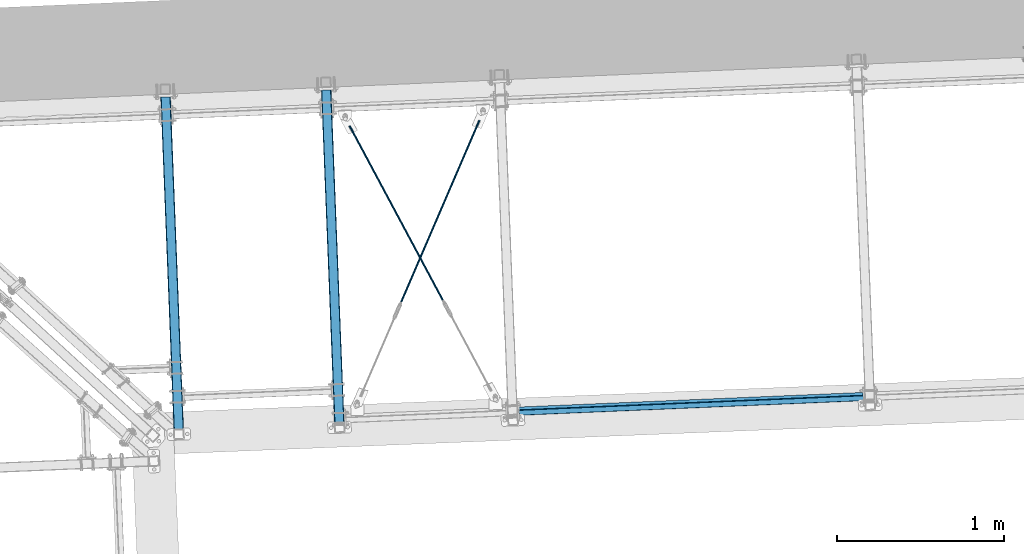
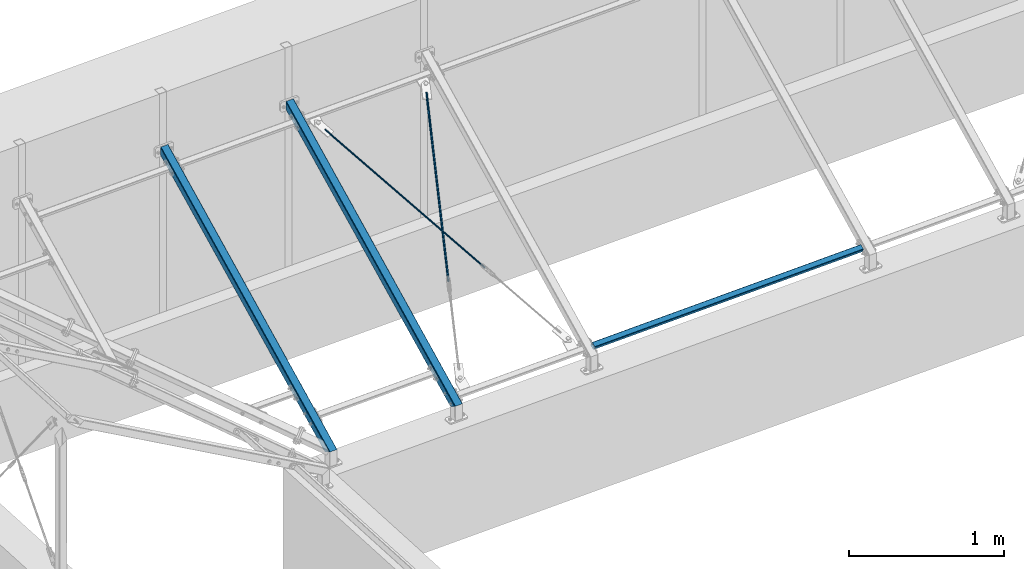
# One storey, part 15 of 288: 5 members, 48 openings.
"""IFC2X3 building model written with IfcOpenShell, lengths in millimetres."""

from ifc_helpers import new_model, entity, si_unit, converted_unit, frame, frame_2d, origin, origin_with_axes, origin_2d, place, context, project, spatial, hollow_rectangle, circle, extrude, clip, halfspace, material, element, save


model = new_model("IFC2X3")

# Units and contexts
model_context = context("Model", 3, precision=1e-09, world=origin_with_axes())
ifc_project = project(units=[si_unit("LENGTHUNIT", "METRE", prefix="MILLI"), si_unit("AREAUNIT", "SQUARE_METRE"), si_unit("VOLUMEUNIT", "CUBIC_METRE"), converted_unit("PLANEANGLEUNIT", "DEGREE", entity("IfcPlaneAngleMeasure", 0.01745329), si_unit("PLANEANGLEUNIT", "RADIAN"), dimensions=[0, 0, 0, 0, 0, 0, 0])], contexts=[model_context])

# Site, building, storey
site_placement = place(None, origin_with_axes())
site = spatial("IfcSite", under=ifc_project, at=site_placement, Name="Remont ?wietlik?w nad MC w NCPP w Opolu", CompositionType="ELEMENT")
building_placement = place(site_placement, origin_with_axes())
building = spatial("IfcBuilding", under=site, at=building_placement, Name="Konstrukcja 1", CompositionType="ELEMENT")
storey_placement = place(building_placement, origin_with_axes())
storey = spatial("IfcBuildingStorey", under=building, at=storey_placement, Name="Default Storey", CompositionType="ELEMENT", Elevation=0.0)

# Member, openings
ifc_material_1 = material(Name="S235")
member_1_placement = place(None, frame((1393.687039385, 15659.063221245, 1324.252991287), z_axis=(0.034018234, -0.862887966, -0.504249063), x_axis=(-0.019863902, 0.503857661, -0.863558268)))
member_1 = element("IfcMember", 1, at=member_1_placement, inside=storey, material=ifc_material_1, Name="Horizontal_Beam", ObjectType="Horizontal_Beam", context=model_context, shape_type="Clipping", body=[
    clip(clip(clip(extrude(hollow_rectangle(XDim=60.0, YDim=60.0, WallThickness=3.0, InnerFilletRadius=3.0, OuterFilletRadius=6.0, at=origin_2d()), origin(), (0.0, 0.0, 1.0), 2457.619971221), halfspace(frame((1118.948058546, -2009.460506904, 709.919199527), z_axis=(-0.504249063, -2.27e-07, 0.863558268), x_axis=(0.0, 1.0, 2.09e-07)), True)), halfspace(frame((1111.485514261, -2009.464031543, 722.69927647), z_axis=(-0.504249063, 0.0, 0.863558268), x_axis=(0.0, 1.0, 0.0)), True)), halfspace(frame((-10115.320477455, -2009.463927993, 8215.696932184), z_axis=(-0.497871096, 0.0, -0.867251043), x_axis=(0.0, -1.0, 0.0)), True)),
])
opening_1_placement = place(member_1_placement, frame((6.302336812, 26.273066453, 2108.165199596), z_axis=(-0.001743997, -0.999995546, 0.002422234), x_axis=(0.999998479, -0.001744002, 0.0)))
element("IfcOpeningElement", 2, at=opening_1_placement, cuts=member_1, ObjectType="Opening", context=model_context, shape_type="SweptSolid", body=[
    extrude(circle(Radius=7.001, at=frame_2d((-7.000994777, -0.008551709), x_axis=(1.0, 0.0))), origin(), (0.0, 0.0, -1.0), 4.232758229),
])
opening_2_placement = place(member_1_placement, frame((6.204955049, 26.467015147, 2188.164905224), z_axis=(-0.001743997, -0.999995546, 0.002422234), x_axis=(0.999998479, -0.001744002, 0.0)))
element("IfcOpeningElement", 3, at=opening_2_placement, cuts=member_1, ObjectType="Opening", context=model_context, shape_type="SweptSolid", body=[
    extrude(circle(Radius=7.001, at=frame_2d((-7.000994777, -0.008551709), x_axis=(1.0, 0.0))), origin(), (0.0, 0.0, -1.0), 4.232758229),
])
opening_3_placement = place(member_1_placement, frame((6.302336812, 26.273066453, 2108.165199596), z_axis=(-0.001743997, -0.999995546, 0.002422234), x_axis=(0.999998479, -0.001744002, 0.0)))
element("IfcOpeningElement", 4, at=opening_3_placement, cuts=member_1, ObjectType="Opening", context=model_context, shape_type="SweptSolid", body=[
    extrude(circle(Radius=7.001, at=frame_2d((-7.000994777, -0.008551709), x_axis=(1.0, 0.0))), origin(), (0.0, 0.0, -1.0), 4.038808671),
])
opening_4_placement = place(member_1_placement, frame((6.204955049, 26.467015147, 2188.164905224), z_axis=(-0.001743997, -0.999995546, 0.002422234), x_axis=(0.999998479, -0.001744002, 0.0)))
element("IfcOpeningElement", 5, at=opening_4_placement, cuts=member_1, ObjectType="Opening", context=model_context, shape_type="SweptSolid", body=[
    extrude(circle(Radius=7.001, at=frame_2d((-7.000994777, -0.008551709), x_axis=(1.0, 0.0))), origin(), (0.0, 0.0, -1.0), 4.038808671),
])
opening_5_placement = place(member_1_placement, frame((6.202928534, -30.726933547, 2108.303267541), z_axis=(-0.001743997, -0.999995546, 0.002422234), x_axis=(0.999998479, -0.001744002, 0.0)))
element("IfcOpeningElement", 6, at=opening_5_placement, cuts=member_1, ObjectType="Opening", context=model_context, shape_type="SweptSolid", body=[
    extrude(circle(Radius=7.001, at=frame_2d((-7.000994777, -0.008551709), x_axis=(1.0, 0.0))), origin(), (0.0, 0.0, -1.0), 4.232758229),
])
opening_6_placement = place(member_1_placement, frame((6.10554677, -30.532984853, 2188.30297317), z_axis=(-0.001743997, -0.999995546, 0.002422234), x_axis=(0.999998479, -0.001744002, 0.0)))
element("IfcOpeningElement", 7, at=opening_6_placement, cuts=member_1, ObjectType="Opening", context=model_context, shape_type="SweptSolid", body=[
    extrude(circle(Radius=7.001, at=frame_2d((-7.000994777, -0.008551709), x_axis=(1.0, 0.0))), origin(), (0.0, 0.0, -1.0), 4.232758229),
])
opening_7_placement = place(member_1_placement, frame((6.202928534, -30.726933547, 2108.303267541), z_axis=(-0.001743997, -0.999995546, 0.002422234), x_axis=(0.999998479, -0.001744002, 0.0)))
element("IfcOpeningElement", 8, at=opening_7_placement, cuts=member_1, ObjectType="Opening", context=model_context, shape_type="SweptSolid", body=[
    extrude(circle(Radius=7.001, at=frame_2d((-7.000994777, -0.008551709), x_axis=(1.0, 0.0))), origin(), (0.0, 0.0, -1.0), 4.038808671),
])
opening_8_placement = place(member_1_placement, frame((6.10554677, -30.532984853, 2188.30297317), z_axis=(-0.001743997, -0.999995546, 0.002422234), x_axis=(0.999998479, -0.001744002, 0.0)))
element("IfcOpeningElement", 9, at=opening_8_placement, cuts=member_1, ObjectType="Opening", context=model_context, shape_type="SweptSolid", body=[
    extrude(circle(Radius=7.001, at=frame_2d((-7.000994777, -0.008551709), x_axis=(1.0, 0.0))), origin(), (0.0, 0.0, -1.0), 4.038808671),
])
opening_9_placement = place(member_1_placement, frame((-0.300561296, 30.617770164, 198.955416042), z_axis=(-0.001743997, -0.999995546, 0.002422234), x_axis=(-0.999997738, 0.001741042, -0.001221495)))
element("IfcOpeningElement", 10, at=opening_9_placement, cuts=member_1, ObjectType="Opening", context=model_context, shape_type="SweptSolid", body=[
    extrude(circle(Radius=7.001, at=frame_2d((0.0, 40.0), x_axis=(1.0, 0.0))), origin(), (0.0, 0.0, 1.0), 4.038808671),
])
opening_10_placement = place(member_1_placement, frame((-0.300561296, 30.617770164, 198.955416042), z_axis=(-0.001743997, -0.999995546, 0.002422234), x_axis=(-0.999997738, 0.001741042, -0.001221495)))
element("IfcOpeningElement", 11, at=opening_10_placement, cuts=member_1, ObjectType="Opening", context=model_context, shape_type="SweptSolid", body=[
    extrude(circle(Radius=7.001, at=frame_2d((0.0, -40.0), x_axis=(1.0, 0.0))), origin(), (0.0, 0.0, 1.0), 4.038808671),
])
opening_11_placement = place(member_1_placement, frame((-0.300561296, 30.617770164, 198.955416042), z_axis=(-0.001743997, -0.999995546, 0.002422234), x_axis=(-0.999997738, 0.001741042, -0.001221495)))
element("IfcOpeningElement", 12, at=opening_11_placement, cuts=member_1, ObjectType="Opening", context=model_context, shape_type="SweptSolid", body=[
    extrude(circle(Radius=7.001, at=frame_2d((0.0, 40.0), x_axis=(1.0, 0.0))), origin(), (0.0, 0.0, 1.0), 4.232758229),
])
opening_12_placement = place(member_1_placement, frame((-0.300561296, 30.617770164, 198.955416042), z_axis=(-0.001743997, -0.999995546, 0.002422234), x_axis=(-0.999997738, 0.001741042, -0.001221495)))
element("IfcOpeningElement", 13, at=opening_12_placement, cuts=member_1, ObjectType="Opening", context=model_context, shape_type="SweptSolid", body=[
    extrude(circle(Radius=7.001, at=frame_2d((0.0, -40.0), x_axis=(1.0, 0.0))), origin(), (0.0, 0.0, 1.0), 4.232758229),
])
opening_13_placement = place(member_1_placement, frame((-0.399969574, -26.382229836, 199.093483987), z_axis=(-0.001743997, -0.999995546, 0.002422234), x_axis=(-0.999997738, 0.001741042, -0.001221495)))
element("IfcOpeningElement", 14, at=opening_13_placement, cuts=member_1, ObjectType="Opening", context=model_context, shape_type="SweptSolid", body=[
    extrude(circle(Radius=7.001, at=frame_2d((0.0, 40.0), x_axis=(1.0, 0.0))), origin(), (0.0, 0.0, 1.0), 4.038808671),
])
opening_14_placement = place(member_1_placement, frame((-0.399969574, -26.382229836, 199.093483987), z_axis=(-0.001743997, -0.999995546, 0.002422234), x_axis=(-0.999997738, 0.001741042, -0.001221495)))
element("IfcOpeningElement", 15, at=opening_14_placement, cuts=member_1, ObjectType="Opening", context=model_context, shape_type="SweptSolid", body=[
    extrude(circle(Radius=7.001, at=frame_2d((0.0, -40.0), x_axis=(1.0, 0.0))), origin(), (0.0, 0.0, 1.0), 4.038808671),
])
opening_15_placement = place(member_1_placement, frame((-0.399969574, -26.382229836, 199.093483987), z_axis=(-0.001743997, -0.999995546, 0.002422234), x_axis=(-0.999997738, 0.001741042, -0.001221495)))
element("IfcOpeningElement", 16, at=opening_15_placement, cuts=member_1, ObjectType="Opening", context=model_context, shape_type="SweptSolid", body=[
    extrude(circle(Radius=7.001, at=frame_2d((0.0, 40.0), x_axis=(1.0, 0.0))), origin(), (0.0, 0.0, 1.0), 4.232758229),
])
opening_16_placement = place(member_1_placement, frame((-0.399969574, -26.382229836, 199.093483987), z_axis=(-0.001743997, -0.999995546, 0.002422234), x_axis=(-0.999997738, 0.001741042, -0.001221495)))
element("IfcOpeningElement", 17, at=opening_16_placement, cuts=member_1, ObjectType="Opening", context=model_context, shape_type="SweptSolid", body=[
    extrude(circle(Radius=7.001, at=frame_2d((0.0, -40.0), x_axis=(1.0, 0.0))), origin(), (0.0, 0.0, 1.0), 4.232758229),
])
opening_17_placement = place(member_1_placement, frame((6.302336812, 26.273066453, 1908.165199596), z_axis=(-0.001743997, -0.999995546, 0.002422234), x_axis=(0.999998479, -0.001744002, 0.0)))
element("IfcOpeningElement", 18, at=opening_17_placement, cuts=member_1, ObjectType="Opening", context=model_context, shape_type="SweptSolid", body=[
    extrude(circle(Radius=7.001, at=frame_2d((-7.000994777, -0.008551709), x_axis=(1.0, 0.0))), origin(), (0.0, 0.0, -1.0), 4.232758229),
])
opening_18_placement = place(member_1_placement, frame((6.204955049, 26.467015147, 1988.164905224), z_axis=(-0.001743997, -0.999995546, 0.002422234), x_axis=(0.999998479, -0.001744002, 0.0)))
element("IfcOpeningElement", 19, at=opening_18_placement, cuts=member_1, ObjectType="Opening", context=model_context, shape_type="SweptSolid", body=[
    extrude(circle(Radius=7.001, at=frame_2d((-7.000994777, -0.008551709), x_axis=(1.0, 0.0))), origin(), (0.0, 0.0, -1.0), 4.232758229),
])
opening_19_placement = place(member_1_placement, frame((6.302336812, 26.273066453, 1908.165199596), z_axis=(-0.001743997, -0.999995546, 0.002422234), x_axis=(0.999998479, -0.001744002, 0.0)))
element("IfcOpeningElement", 20, at=opening_19_placement, cuts=member_1, ObjectType="Opening", context=model_context, shape_type="SweptSolid", body=[
    extrude(circle(Radius=7.001, at=frame_2d((-7.000994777, -0.008551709), x_axis=(1.0, 0.0))), origin(), (0.0, 0.0, -1.0), 4.038808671),
])
opening_20_placement = place(member_1_placement, frame((6.204955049, 26.467015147, 1988.164905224), z_axis=(-0.001743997, -0.999995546, 0.002422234), x_axis=(0.999998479, -0.001744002, 0.0)))
element("IfcOpeningElement", 21, at=opening_20_placement, cuts=member_1, ObjectType="Opening", context=model_context, shape_type="SweptSolid", body=[
    extrude(circle(Radius=7.001, at=frame_2d((-7.000994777, -0.008551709), x_axis=(1.0, 0.0))), origin(), (0.0, 0.0, -1.0), 4.038808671),
])
opening_21_placement = place(member_1_placement, frame((6.202928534, -30.726933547, 1908.303267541), z_axis=(-0.001743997, -0.999995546, 0.002422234), x_axis=(0.999998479, -0.001744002, 0.0)))
element("IfcOpeningElement", 22, at=opening_21_placement, cuts=member_1, ObjectType="Opening", context=model_context, shape_type="SweptSolid", body=[
    extrude(circle(Radius=7.001, at=frame_2d((-7.000994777, -0.008551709), x_axis=(1.0, 0.0))), origin(), (0.0, 0.0, -1.0), 4.232758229),
])
opening_22_placement = place(member_1_placement, frame((6.10554677, -30.532984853, 1988.30297317), z_axis=(-0.001743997, -0.999995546, 0.002422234), x_axis=(0.999998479, -0.001744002, 0.0)))
element("IfcOpeningElement", 23, at=opening_22_placement, cuts=member_1, ObjectType="Opening", context=model_context, shape_type="SweptSolid", body=[
    extrude(circle(Radius=7.001, at=frame_2d((-7.000994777, -0.008551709), x_axis=(1.0, 0.0))), origin(), (0.0, 0.0, -1.0), 4.232758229),
])
opening_23_placement = place(member_1_placement, frame((6.202928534, -30.726933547, 1908.303267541), z_axis=(-0.001743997, -0.999995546, 0.002422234), x_axis=(0.999998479, -0.001744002, 0.0)))
element("IfcOpeningElement", 24, at=opening_23_placement, cuts=member_1, ObjectType="Opening", context=model_context, shape_type="SweptSolid", body=[
    extrude(circle(Radius=7.001, at=frame_2d((-7.000994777, -0.008551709), x_axis=(1.0, 0.0))), origin(), (0.0, 0.0, -1.0), 4.038808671),
])
opening_24_placement = place(member_1_placement, frame((6.10554677, -30.532984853, 1988.30297317), z_axis=(-0.001743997, -0.999995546, 0.002422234), x_axis=(0.999998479, -0.001744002, 0.0)))
element("IfcOpeningElement", 25, at=opening_24_placement, cuts=member_1, ObjectType="Opening", context=model_context, shape_type="SweptSolid", body=[
    extrude(circle(Radius=7.001, at=frame_2d((-7.000994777, -0.008551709), x_axis=(1.0, 0.0))), origin(), (0.0, 0.0, -1.0), 4.038808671),
])

member_2_placement = place(None, frame((2353.085716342, 15699.741543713, 1323.807360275), z_axis=(0.034021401, -0.862968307, -0.504111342), x_axis=(-0.019858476, 0.503720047, -0.863638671)))
member_2 = element("IfcMember", 26, at=member_2_placement, inside=storey, material=ifc_material_1, Name="Horizontal_Beam", ObjectType="Horizontal_Beam", context=model_context, shape_type="Clipping", body=[
    clip(clip(clip(extrude(hollow_rectangle(XDim=60.0, YDim=60.0, WallThickness=3.0, InnerFilletRadius=3.0, OuterFilletRadius=6.0, at=origin_2d()), origin(), (0.0, 0.0, 1.0), 2457.39796562), halfspace(frame((1111.316687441, -2969.720459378, 722.124627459), z_axis=(-0.504111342, 0.0, 0.863638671), x_axis=(0.0, 1.0, 0.0)), True)), halfspace(frame((1119.057801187, -2969.716933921, 708.862626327), z_axis=(-0.504111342, -2.27e-07, 0.863638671), x_axis=(0.0, 1.0, 2.09e-07)), True)), halfspace(frame((-10116.531694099, -2969.720355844, 8217.240557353), z_axis=(-0.497940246, 0.0, -0.867211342), x_axis=(0.0, -1.0, 0.0)), True)),
])
opening_25_placement = place(member_2_placement, frame((6.489698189, 26.273066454, 2108.077292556), z_axis=(-0.001743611, -0.999995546, 0.002422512), x_axis=(0.99999848, -0.001743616, 0.0)))
element("IfcOpeningElement", 27, at=opening_25_placement, cuts=member_2, ObjectType="Opening", context=model_context, shape_type="SweptSolid", body=[
    extrude(circle(Radius=7.001, at=frame_2d((-7.000996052, -0.007435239), x_axis=(1.0, 0.0))), origin(), (0.0, 0.0, -1.0), 4.232758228),
])
opening_26_placement = place(member_2_placement, frame((6.405074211, 26.467015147, 2188.077012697), z_axis=(-0.001743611, -0.999995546, 0.002422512), x_axis=(0.99999848, -0.001743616, 0.0)))
element("IfcOpeningElement", 28, at=opening_26_placement, cuts=member_2, ObjectType="Opening", context=model_context, shape_type="SweptSolid", body=[
    extrude(circle(Radius=7.001, at=frame_2d((-7.000996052, -0.007435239), x_axis=(1.0, 0.0))), origin(), (0.0, 0.0, -1.0), 4.232758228),
])
opening_27_placement = place(member_2_placement, frame((6.489698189, 26.273066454, 2108.077292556), z_axis=(-0.001743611, -0.999995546, 0.002422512), x_axis=(0.99999848, -0.001743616, 0.0)))
element("IfcOpeningElement", 29, at=opening_27_placement, cuts=member_2, ObjectType="Opening", context=model_context, shape_type="SweptSolid", body=[
    extrude(circle(Radius=7.001, at=frame_2d((-7.000996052, -0.007435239), x_axis=(1.0, 0.0))), origin(), (0.0, 0.0, -1.0), 4.038808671),
])
opening_28_placement = place(member_2_placement, frame((6.405074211, 26.467015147, 2188.077012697), z_axis=(-0.001743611, -0.999995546, 0.002422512), x_axis=(0.99999848, -0.001743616, 0.0)))
element("IfcOpeningElement", 30, at=opening_28_placement, cuts=member_2, ObjectType="Opening", context=model_context, shape_type="SweptSolid", body=[
    extrude(circle(Radius=7.001, at=frame_2d((-7.000996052, -0.007435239), x_axis=(1.0, 0.0))), origin(), (0.0, 0.0, -1.0), 4.038808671),
])
opening_29_placement = place(member_2_placement, frame((6.390311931, -30.726933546, 2108.215376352), z_axis=(-0.001743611, -0.999995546, 0.002422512), x_axis=(0.99999848, -0.001743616, 0.0)))
element("IfcOpeningElement", 31, at=opening_29_placement, cuts=member_2, ObjectType="Opening", context=model_context, shape_type="SweptSolid", body=[
    extrude(circle(Radius=7.001, at=frame_2d((-7.000996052, -0.007435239), x_axis=(1.0, 0.0))), origin(), (0.0, 0.0, -1.0), 4.232758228),
])
opening_30_placement = place(member_2_placement, frame((6.305687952, -30.532984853, 2188.215096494), z_axis=(-0.001743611, -0.999995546, 0.002422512), x_axis=(0.99999848, -0.001743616, 0.0)))
element("IfcOpeningElement", 32, at=opening_30_placement, cuts=member_2, ObjectType="Opening", context=model_context, shape_type="SweptSolid", body=[
    extrude(circle(Radius=7.001, at=frame_2d((-7.000996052, -0.007435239), x_axis=(1.0, 0.0))), origin(), (0.0, 0.0, -1.0), 4.232758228),
])
opening_31_placement = place(member_2_placement, frame((6.390311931, -30.726933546, 2108.215376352), z_axis=(-0.001743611, -0.999995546, 0.002422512), x_axis=(0.99999848, -0.001743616, 0.0)))
element("IfcOpeningElement", 33, at=opening_31_placement, cuts=member_2, ObjectType="Opening", context=model_context, shape_type="SweptSolid", body=[
    extrude(circle(Radius=7.001, at=frame_2d((-7.000996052, -0.007435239), x_axis=(1.0, 0.0))), origin(), (0.0, 0.0, -1.0), 4.038808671),
])
opening_32_placement = place(member_2_placement, frame((6.305687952, -30.532984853, 2188.215096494), z_axis=(-0.001743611, -0.999995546, 0.002422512), x_axis=(0.99999848, -0.001743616, 0.0)))
element("IfcOpeningElement", 34, at=opening_32_placement, cuts=member_2, ObjectType="Opening", context=model_context, shape_type="SweptSolid", body=[
    extrude(circle(Radius=7.001, at=frame_2d((-7.000996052, -0.007435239), x_axis=(1.0, 0.0))), origin(), (0.0, 0.0, -1.0), 4.038808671),
])
opening_33_placement = place(member_2_placement, frame((-0.417667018, 30.617770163, 198.868586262), z_axis=(-0.001743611, -0.999995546, 0.002422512), x_axis=(-0.99999792, 0.001741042, -0.001062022)))
element("IfcOpeningElement", 35, at=opening_33_placement, cuts=member_2, ObjectType="Opening", context=model_context, shape_type="SweptSolid", body=[
    extrude(circle(Radius=7.001, at=frame_2d((0.0, 40.0), x_axis=(1.0, 0.0))), origin(), (0.0, 0.0, 1.0), 4.038808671),
])
opening_34_placement = place(member_2_placement, frame((-0.417667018, 30.617770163, 198.868586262), z_axis=(-0.001743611, -0.999995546, 0.002422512), x_axis=(-0.99999792, 0.001741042, -0.001062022)))
element("IfcOpeningElement", 36, at=opening_34_placement, cuts=member_2, ObjectType="Opening", context=model_context, shape_type="SweptSolid", body=[
    extrude(circle(Radius=7.001, at=frame_2d((0.0, -40.0), x_axis=(1.0, 0.0))), origin(), (0.0, 0.0, 1.0), 4.038808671),
])
opening_35_placement = place(member_2_placement, frame((-0.417667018, 30.617770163, 198.868586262), z_axis=(-0.001743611, -0.999995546, 0.002422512), x_axis=(-0.99999792, 0.001741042, -0.001062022)))
element("IfcOpeningElement", 37, at=opening_35_placement, cuts=member_2, ObjectType="Opening", context=model_context, shape_type="SweptSolid", body=[
    extrude(circle(Radius=7.001, at=frame_2d((0.0, 40.0), x_axis=(1.0, 0.0))), origin(), (0.0, 0.0, 1.0), 4.232758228),
])
opening_36_placement = place(member_2_placement, frame((-0.417667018, 30.617770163, 198.868586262), z_axis=(-0.001743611, -0.999995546, 0.002422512), x_axis=(-0.99999792, 0.001741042, -0.001062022)))
element("IfcOpeningElement", 38, at=opening_36_placement, cuts=member_2, ObjectType="Opening", context=model_context, shape_type="SweptSolid", body=[
    extrude(circle(Radius=7.001, at=frame_2d((0.0, -40.0), x_axis=(1.0, 0.0))), origin(), (0.0, 0.0, 1.0), 4.232758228),
])
opening_37_placement = place(member_2_placement, frame((-0.517053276, -26.382229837, 199.006670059), z_axis=(-0.001743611, -0.999995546, 0.002422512), x_axis=(-0.99999792, 0.001741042, -0.001062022)))
element("IfcOpeningElement", 39, at=opening_37_placement, cuts=member_2, ObjectType="Opening", context=model_context, shape_type="SweptSolid", body=[
    extrude(circle(Radius=7.001, at=frame_2d((0.0, 40.0), x_axis=(1.0, 0.0))), origin(), (0.0, 0.0, 1.0), 4.038808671),
])
opening_38_placement = place(member_2_placement, frame((-0.517053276, -26.382229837, 199.006670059), z_axis=(-0.001743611, -0.999995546, 0.002422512), x_axis=(-0.99999792, 0.001741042, -0.001062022)))
element("IfcOpeningElement", 40, at=opening_38_placement, cuts=member_2, ObjectType="Opening", context=model_context, shape_type="SweptSolid", body=[
    extrude(circle(Radius=7.001, at=frame_2d((0.0, -40.0), x_axis=(1.0, 0.0))), origin(), (0.0, 0.0, 1.0), 4.038808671),
])
opening_39_placement = place(member_2_placement, frame((-0.517053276, -26.382229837, 199.006670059), z_axis=(-0.001743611, -0.999995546, 0.002422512), x_axis=(-0.99999792, 0.001741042, -0.001062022)))
element("IfcOpeningElement", 41, at=opening_39_placement, cuts=member_2, ObjectType="Opening", context=model_context, shape_type="SweptSolid", body=[
    extrude(circle(Radius=7.001, at=frame_2d((0.0, 40.0), x_axis=(1.0, 0.0))), origin(), (0.0, 0.0, 1.0), 4.232758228),
])
opening_40_placement = place(member_2_placement, frame((-0.517053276, -26.382229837, 199.006670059), z_axis=(-0.001743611, -0.999995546, 0.002422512), x_axis=(-0.99999792, 0.001741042, -0.001062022)))
element("IfcOpeningElement", 42, at=opening_40_placement, cuts=member_2, ObjectType="Opening", context=model_context, shape_type="SweptSolid", body=[
    extrude(circle(Radius=7.001, at=frame_2d((0.0, -40.0), x_axis=(1.0, 0.0))), origin(), (0.0, 0.0, 1.0), 4.232758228),
])
opening_41_placement = place(member_2_placement, frame((-0.758619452, 30.617770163, 2348.059931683), z_axis=(-0.001743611, -0.999995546, 0.002422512), x_axis=(-0.99999792, 0.001741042, -0.001062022)))
element("IfcOpeningElement", 43, at=opening_41_placement, cuts=member_2, ObjectType="Opening", context=model_context, shape_type="SweptSolid", body=[
    extrude(circle(Radius=7.001, at=frame_2d((0.0, 40.0), x_axis=(1.0, 0.0))), origin(), (0.0, 0.0, 1.0), 4.038808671),
])
opening_42_placement = place(member_2_placement, frame((-0.758619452, 30.617770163, 2348.059931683), z_axis=(-0.001743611, -0.999995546, 0.002422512), x_axis=(-0.99999792, 0.001741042, -0.001062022)))
element("IfcOpeningElement", 44, at=opening_42_placement, cuts=member_2, ObjectType="Opening", context=model_context, shape_type="SweptSolid", body=[
    extrude(circle(Radius=7.001, at=frame_2d((0.0, -40.0), x_axis=(1.0, 0.0))), origin(), (0.0, 0.0, 1.0), 4.038808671),
])
opening_43_placement = place(member_2_placement, frame((-0.758619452, 30.617770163, 2348.059931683), z_axis=(-0.001743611, -0.999995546, 0.002422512), x_axis=(-0.99999792, 0.001741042, -0.001062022)))
element("IfcOpeningElement", 45, at=opening_43_placement, cuts=member_2, ObjectType="Opening", context=model_context, shape_type="SweptSolid", body=[
    extrude(circle(Radius=7.001, at=frame_2d((0.0, 40.0), x_axis=(1.0, 0.0))), origin(), (0.0, 0.0, 1.0), 4.232758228),
])
opening_44_placement = place(member_2_placement, frame((-0.758619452, 30.617770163, 2348.059931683), z_axis=(-0.001743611, -0.999995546, 0.002422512), x_axis=(-0.99999792, 0.001741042, -0.001062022)))
element("IfcOpeningElement", 46, at=opening_44_placement, cuts=member_2, ObjectType="Opening", context=model_context, shape_type="SweptSolid", body=[
    extrude(circle(Radius=7.001, at=frame_2d((0.0, -40.0), x_axis=(1.0, 0.0))), origin(), (0.0, 0.0, 1.0), 4.232758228),
])
opening_45_placement = place(member_2_placement, frame((-0.858005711, -26.382229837, 2348.198015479), z_axis=(-0.001743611, -0.999995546, 0.002422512), x_axis=(-0.99999792, 0.001741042, -0.001062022)))
element("IfcOpeningElement", 47, at=opening_45_placement, cuts=member_2, ObjectType="Opening", context=model_context, shape_type="SweptSolid", body=[
    extrude(circle(Radius=7.001, at=frame_2d((0.0, 40.0), x_axis=(1.0, 0.0))), origin(), (0.0, 0.0, 1.0), 4.038808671),
])
opening_46_placement = place(member_2_placement, frame((-0.858005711, -26.382229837, 2348.198015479), z_axis=(-0.001743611, -0.999995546, 0.002422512), x_axis=(-0.99999792, 0.001741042, -0.001062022)))
element("IfcOpeningElement", 48, at=opening_46_placement, cuts=member_2, ObjectType="Opening", context=model_context, shape_type="SweptSolid", body=[
    extrude(circle(Radius=7.001, at=frame_2d((0.0, -40.0), x_axis=(1.0, 0.0))), origin(), (0.0, 0.0, 1.0), 4.038808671),
])
opening_47_placement = place(member_2_placement, frame((-0.858005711, -26.382229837, 2348.198015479), z_axis=(-0.001743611, -0.999995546, 0.002422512), x_axis=(-0.99999792, 0.001741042, -0.001062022)))
element("IfcOpeningElement", 49, at=opening_47_placement, cuts=member_2, ObjectType="Opening", context=model_context, shape_type="SweptSolid", body=[
    extrude(circle(Radius=7.001, at=frame_2d((0.0, 40.0), x_axis=(1.0, 0.0))), origin(), (0.0, 0.0, 1.0), 4.232758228),
])
opening_48_placement = place(member_2_placement, frame((-0.858005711, -26.382229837, 2348.198015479), z_axis=(-0.001743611, -0.999995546, 0.002422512), x_axis=(-0.99999792, 0.001741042, -0.001062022)))
element("IfcOpeningElement", 50, at=opening_48_placement, cuts=member_2, ObjectType="Opening", context=model_context, shape_type="SweptSolid", body=[
    extrude(circle(Radius=7.001, at=frame_2d((0.0, -40.0), x_axis=(1.0, 0.0))), origin(), (0.0, 0.0, 1.0), 4.232758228),
])

# Members
member_3_placement = place(None, frame((5563.268648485, 13805.690487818, 139.895902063), z_axis=(0.999102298, 0.042361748, -0.000284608), x_axis=(-0.036464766, 0.86340262, 0.503196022)))
element("IfcMember", 51, at=member_3_placement, inside=storey, material=ifc_material_1, Name="TubeBracing", ObjectType="TubeBracing", context=model_context, shape_type="SweptSolid", body=[
    extrude(hollow_rectangle(XDim=40.0, YDim=40.0, WallThickness=3.0, InnerFilletRadius=3.0, OuterFilletRadius=6.0, at=origin_2d()), origin(), (0.0, 0.0, -1.0), 2056.949031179),
])
ifc_material_2 = material(Name="S275J2")
member_4_placement = place(None, frame((2777.237289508, 14310.054946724, 512.840323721), z_axis=(-0.350075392, -0.813033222, -0.465214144), x_axis=(0.021594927, -0.503513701, 0.863717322)))
element("IfcMember", 52, at=member_4_placement, inside=storey, material=ifc_material_2, Name="Tension_Rod#2", ObjectType="Tension_Rod#2", context=model_context, shape_type="Clipping", body=[
    clip(clip(extrude(circle(Radius=6.0, at=origin_2d()), origin(), (0.0, 0.0, -1.0), 1569.682067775), halfspace(frame((6702.385426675, -1681.708843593, -33.486281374), z_axis=(0.0, 0.0, -1.0), x_axis=(-0.218962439, 0.975733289, 0.0)), True)), halfspace(frame((6702.385426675, -1681.708843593, -1411.195786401), z_axis=(0.0, 0.0, 1.0), x_axis=(0.218962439, -0.975733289, 0.0)), True)),
])
member_5_placement = place(None, frame((3083.248921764, 14323.029782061, 512.753152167), z_axis=(0.417375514, -0.780493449, -0.465432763), x_axis=(-0.021594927, 0.503513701, -0.863717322)))
element("IfcMember", 53, at=member_5_placement, inside=storey, material=ifc_material_2, Name="Tension_Rod#2", ObjectType="Tension_Rod#2", context=model_context, shape_type="Clipping", body=[
    clip(clip(extrude(circle(Radius=6.0, at=origin_2d()), origin(), (0.0, 0.0, -1.0), 1569.682067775), halfspace(frame((-6702.385426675, -8207.510685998, -33.486281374), z_axis=(0.0, 0.0, -1.0), x_axis=(-0.218397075, -0.975859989, 0.0)), True)), halfspace(frame((-6702.385426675, -8207.510685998, -1411.195786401), z_axis=(0.0, 0.0, 1.0), x_axis=(0.218397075, 0.975859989, 0.0)), True)),
])

save(model, "model.ifc")
